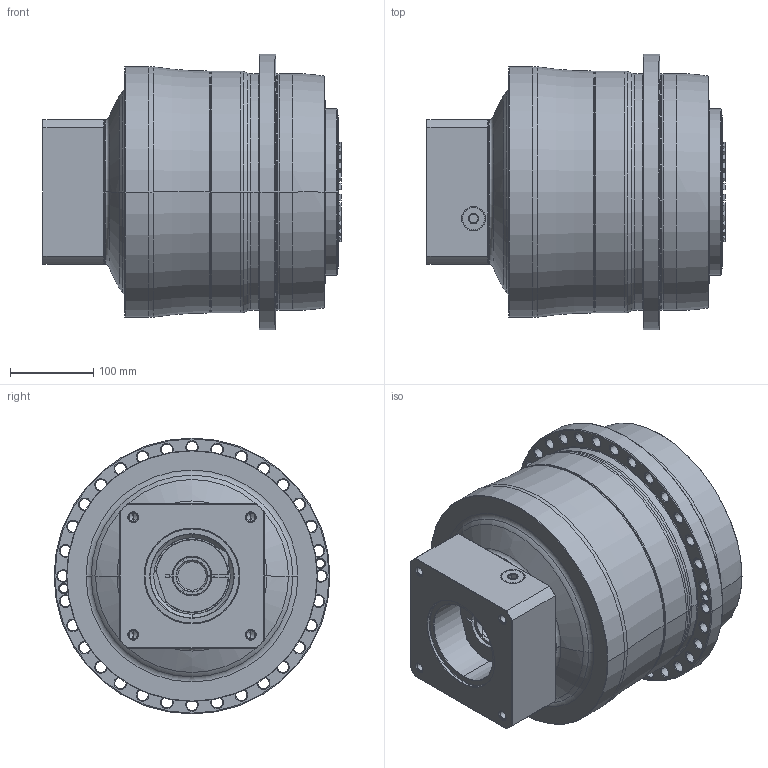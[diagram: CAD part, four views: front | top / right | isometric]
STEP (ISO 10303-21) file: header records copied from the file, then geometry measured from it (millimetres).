
FILE_DESCRIPTION((''),'2;1');
FILE_NAME('APC285_2ST_38-P0409910201_ASM','2018-06-29T',('d01226'),(''),'PRO/ENGINEER BY PARAMETRIC TECHNOLOGY CORPORATION, 2008410','PRO/ENGINEER BY PARAMETRIC TECHNOLOGY CORPORATION, 2008410','');
FILE_SCHEMA(('CONFIG_CONTROL_DESIGN'));
Length unit declared in the file: millimetre
Products named in the file (9): P0278801003; P03598G0103; P1317810101; P0503900012; P0912751001; P1211800001; P0409910201; 21711422019; APC285_2ST_38-P0409910201_ASM
Assembly tree (8 placements, depth 2):
  APC285_2ST_38-P0409910201_ASM
    P0278801003
    P03598G0103
    P1317810101
    P0503900012
    P0912751001
    P1211800001
    P0409910201
    21711422019
Bounding box: 359.6 x 332 x 332 mm (x, y, z)
Volume: 17922746.4 mm3; surface area: 1039009 mm2
Topology: 9 solids, 21 shells, 814 faces, 1998 edges, 1223 vertices
Faces by surface type: cone 288, cylinder 236, plane 145, torus 129, bspline 16
Entity records: 29592 total; most frequent: CARTESIAN_POINT 9924, DIRECTION 4389, ORIENTED_EDGE 3910, EDGE_CURVE 1980, AXIS2_PLACEMENT_3D 1924, VERTEX_POINT 1223, CIRCLE 1097, EDGE_LOOP 937
